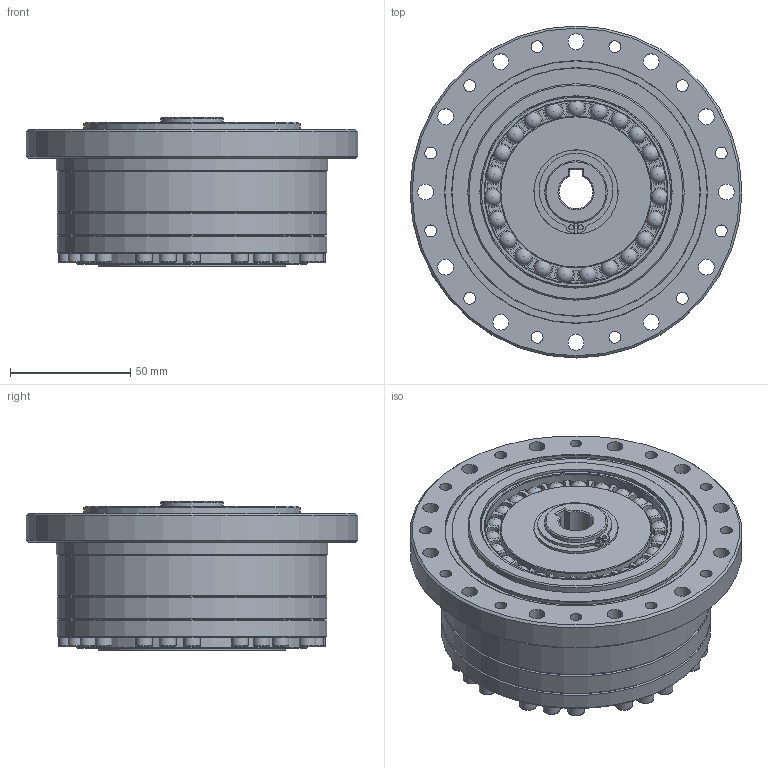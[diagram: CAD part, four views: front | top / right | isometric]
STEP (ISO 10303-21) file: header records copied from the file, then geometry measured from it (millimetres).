
FILE_DESCRIPTION(/* description */ (''),/* implementation_level */ '2;1');
FILE_NAME(/* name */ 'S:\TB00F\研發課二組\機密級\1.\X2\8A2D8A08\X0\\01-DT\DT圖面-y\2.組合圖\\X2\6A21578B\X0\\WUT-S-XX-PO\WUT-S-32-PO模型\AK0002N1-修改.stp',/* time_stamp */ '2018-12-07T10:08:59+08:00',/* author */ ('yin210'),/* organization */ (''),/* preprocessor_version */ 'ST-DEVELOPER v15.2',/* originating_system */ 'Autodesk Inventor 2014',/* authorisation */ '');
FILE_SCHEMA (('AUTOMOTIVE_DESIGN { 1 0 10303 214 3 1 1 }'));
Length unit declared in the file: centimetre
Products named in the file (1): AK0002N1-修改
Bounding box: 138 x 138 x 62 mm (x, y, z)
Volume: 568527 mm3; surface area: 77757.1 mm2
Topology: 1 solids, 1 shells, 628 faces, 1558 edges, 972 vertices
Faces by surface type: plane 268, cylinder 192, torus 73, cone 72, sphere 23
Full cylindrical faces by diameter (mm): 2 x2, 4 x4, 4.917 x12, 6.6 x12, 6.647 x8, 7 x24, 8.376 x8, 20 x1, 24.9 x1, 26 x2, 27 x1, 35 x1, 53.5 x1, 63.04 x1, 68.6 x1, 74 x1, 75.82 x1, 78 x1, 79.75 x1, 90 x1, 96 x1, 103.4 x1, 109 x1, 112 x3, 113 x1, 138 x1
Entity records: 17001 total; most frequent: CARTESIAN_POINT 3005, DIRECTION 2998, ORIENTED_EDGE 2542, AXIS2_PLACEMENT_3D 1292, EDGE_CURVE 1225, EDGE_LOOP 930, VERTEX_POINT 851, CIRCLE 663
